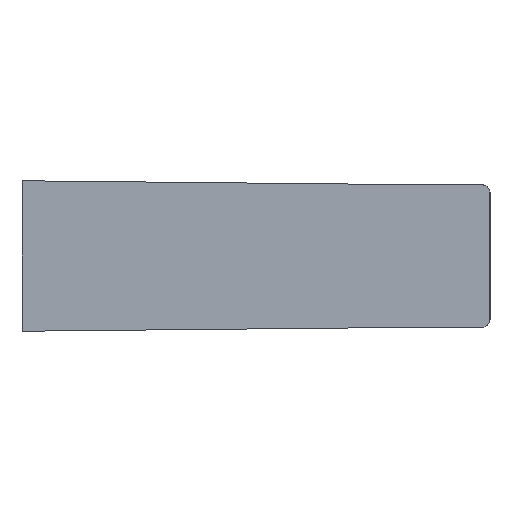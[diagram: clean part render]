
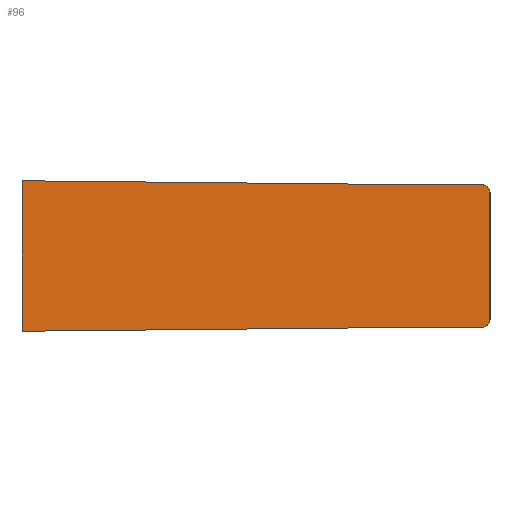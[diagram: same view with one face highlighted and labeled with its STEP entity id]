
A CAD part, left-side view. The second image highlights one B-rep face of the part: STEP entity #96.
In plain terms, the highlighted planar face has unit normal (-1, -0.018, 0).
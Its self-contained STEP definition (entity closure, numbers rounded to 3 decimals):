
#96 = ADVANCED_FACE( '', ( #149 ), #150, .F. );
#149 = FACE_OUTER_BOUND( '', #215, .T. );
#150 = PLANE( '', #216 );
#215 = EDGE_LOOP( '', ( #382, #383, #384, #385, #386, #387, #388, #389 ) );
#216 = AXIS2_PLACEMENT_3D( '', #390, #391, #392 );
#382 = ORIENTED_EDGE( '', *, *, #528, .T. );
#383 = ORIENTED_EDGE( '', *, *, #519, .F. );
#384 = ORIENTED_EDGE( '', *, *, #529, .T. );
#385 = ORIENTED_EDGE( '', *, *, #530, .T. );
#386 = ORIENTED_EDGE( '', *, *, #508, .T. );
#387 = ORIENTED_EDGE( '', *, *, #531, .F. );
#388 = ORIENTED_EDGE( '', *, *, #504, .T. );
#389 = ORIENTED_EDGE( '', *, *, #532, .T. );
#390 = CARTESIAN_POINT( '', ( -16.511, -27.996, 30. ) );
#391 = DIRECTION( '', ( 1., 0.017, 0. ) );
#392 = DIRECTION( '', ( 0.017, -1., 0. ) );
#504 = EDGE_CURVE( '', #604, #605, #606, .T. );
#508 = EDGE_CURVE( '', #611, #612, #613, .T. );
#519 = EDGE_CURVE( '', #628, #626, #630, .T. );
#528 = EDGE_CURVE( '', #639, #626, #640, .T. );
#529 = EDGE_CURVE( '', #628, #641, #642, .T. );
#530 = EDGE_CURVE( '', #641, #611, #643, .T. );
#531 = EDGE_CURVE( '', #604, #612, #644, .T. );
#532 = EDGE_CURVE( '', #605, #639, #645, .T. );
#604 = VERTEX_POINT( '', #906 );
#605 = VERTEX_POINT( '', #907 );
#606 = LINE( '', #908, #909 );
#611 = VERTEX_POINT( '', #932 );
#612 = VERTEX_POINT( '', #933 );
#613 = LINE( '', #934, #935 );
#626 = VERTEX_POINT( '', #954 );
#628 = VERTEX_POINT( '', #957 );
#630 = LINE( '', #960, #961 );
#639 = VERTEX_POINT( '', #970 );
#640 = ELLIPSE( '', #971, 0.5, 0.5 );
#641 = VERTEX_POINT( '', #972 );
#642 = ELLIPSE( '', #973, 0.5, 0.5 );
#643 = LINE( '', #974, #975 );
#644 = LINE( '', #976, #977 );
#645 = LINE( '', #978, #979 );
#906 = CARTESIAN_POINT( '', ( -17., 0., -4.5 ) );
#907 = CARTESIAN_POINT( '', ( -16.577, -24.26, -4.26 ) );
#908 = CARTESIAN_POINT( '', ( -16.733, -15.301, -4.349 ) );
#909 = VECTOR( '', #1078, 1. );
#932 = CARTESIAN_POINT( '', ( -16.577, -24.26, 4.26 ) );
#933 = CARTESIAN_POINT( '', ( -17., 0., 4.5 ) );
#934 = CARTESIAN_POINT( '', ( -16.526, -27.131, 4.232 ) );
#935 = VECTOR( '', #1081, 1. );
#954 = CARTESIAN_POINT( '', ( -16.511, -27.996, -3.825 ) );
#957 = CARTESIAN_POINT( '', ( -16.511, -27.996, 3.825 ) );
#960 = CARTESIAN_POINT( '', ( -16.511, -27.996, 30. ) );
#961 = VECTOR( '', #1096, 1. );
#970 = CARTESIAN_POINT( '', ( -16.52, -27.5, -4.26 ) );
#971 = AXIS2_PLACEMENT_3D( '', #1121, #1122, #1123 );
#972 = CARTESIAN_POINT( '', ( -16.52, -27.5, 4.26 ) );
#973 = AXIS2_PLACEMENT_3D( '', #1124, #1125, #1126 );
#974 = CARTESIAN_POINT( '', ( -16.496, -28.878, 4.26 ) );
#975 = VECTOR( '', #1127, 1. );
#976 = CARTESIAN_POINT( '', ( -17., 0., -4.5 ) );
#977 = VECTOR( '', #1128, 1. );
#978 = CARTESIAN_POINT( '', ( -16.524, -27.258, -4.26 ) );
#979 = VECTOR( '', #1129, 1. );
#1078 = DIRECTION( '', ( 0.017, -1., 0.01 ) );
#1081 = DIRECTION( '', ( -0.017, 1., 0.01 ) );
#1096 = DIRECTION( '', ( 0., 0., -1. ) );
#1121 = CARTESIAN_POINT( '', ( -16.52, -27.5, -3.76 ) );
#1122 = DIRECTION( '', ( -1., -0.017, 0. ) );
#1123 = DIRECTION( '', ( 0.017, -1., 0. ) );
#1124 = CARTESIAN_POINT( '', ( -16.52, -27.5, 3.76 ) );
#1125 = DIRECTION( '', ( -1., -0.017, 0. ) );
#1126 = DIRECTION( '', ( -0.017, 1., 0. ) );
#1127 = DIRECTION( '', ( -0.017, 1., 0. ) );
#1128 = DIRECTION( '', ( 0., 0., 1. ) );
#1129 = DIRECTION( '', ( 0.017, -1., 0. ) );
